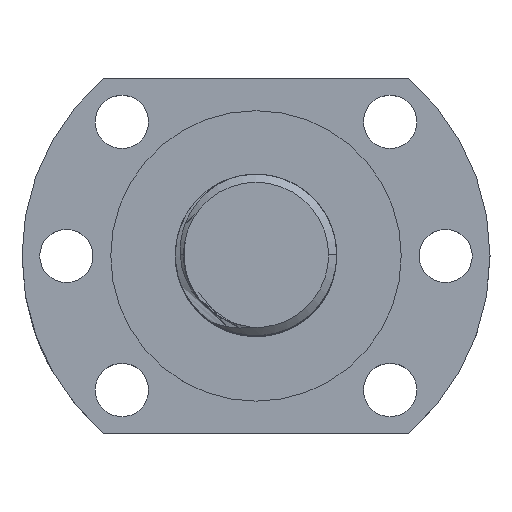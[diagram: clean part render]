
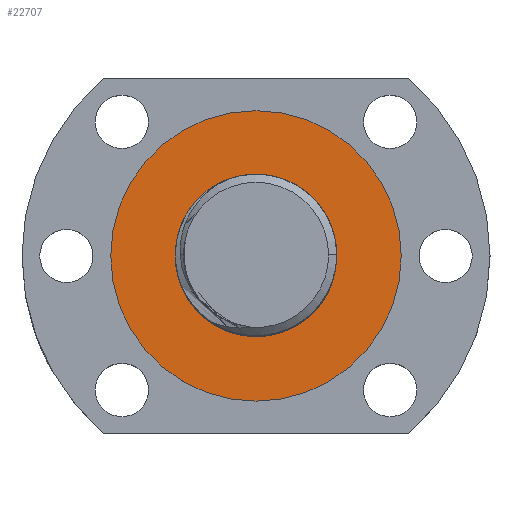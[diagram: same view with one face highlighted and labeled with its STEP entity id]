
A CAD part, top view. The second image highlights one B-rep face of the part: STEP entity #22707.
In plain terms, the highlighted planar face has unit normal (0, 0, 1) as drawn and (0, -1, 0) by its records, which use the part's own axes.
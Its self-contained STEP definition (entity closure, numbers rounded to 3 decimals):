
#1044 = DIRECTION ( 'NONE',  ( 1., 0., 0. ) ) ;
#1426 = EDGE_CURVE ( 'NONE', #13588, #18226, #8099, .T. ) ;
#2222 = AXIS2_PLACEMENT_3D ( 'NONE', #25803, #26121, #25965 ) ;
#3249 = ORIENTED_EDGE ( 'NONE', *, *, #6316, .F. ) ;
#3518 = CARTESIAN_POINT ( 'NONE',  ( 0., -25.5, 0. ) ) ;
#4270 = EDGE_LOOP ( 'NONE', ( #3249, #15597 ) ) ;
#5725 = CARTESIAN_POINT ( 'NONE',  ( 0., -25.5, 18. ) ) ;
#5859 = DIRECTION ( 'NONE',  ( 1., 0., 0. ) ) ;
#5867 = VERTEX_POINT ( 'NONE', #25111 ) ;
#6316 = EDGE_CURVE ( 'NONE', #8057, #5867, #13536, .T. ) ;
#7183 = EDGE_CURVE ( 'NONE', #5867, #8057, #18936, .T. ) ;
#7409 = CARTESIAN_POINT ( 'NONE',  ( 0., -25.5, -10. ) ) ;
#8057 = VERTEX_POINT ( 'NONE', #7409 ) ;
#8099 = CIRCLE ( 'NONE', #23830, 18. ) ;
#8323 = DIRECTION ( 'NONE',  ( 0., -1., 0. ) ) ;
#9188 = CARTESIAN_POINT ( 'NONE',  ( 0., -25.5, -18. ) ) ;
#9263 = DIRECTION ( 'NONE',  ( 1., 0., 0. ) ) ;
#9563 = AXIS2_PLACEMENT_3D ( 'NONE', #18499, #28030, #9263 ) ;
#10198 = ORIENTED_EDGE ( 'NONE', *, *, #1426, .F. ) ;
#10892 = CARTESIAN_POINT ( 'NONE',  ( 0., -25.5, 0. ) ) ;
#12798 = CARTESIAN_POINT ( 'NONE',  ( 0., -25.5, 0. ) ) ;
#13082 = DIRECTION ( 'NONE',  ( 0., 1., 0. ) ) ;
#13536 = CIRCLE ( 'NONE', #28276, 10. ) ;
#13588 = VERTEX_POINT ( 'NONE', #5725 ) ;
#15597 = ORIENTED_EDGE ( 'NONE', *, *, #7183, .F. ) ;
#18226 = VERTEX_POINT ( 'NONE', #9188 ) ;
#18499 = CARTESIAN_POINT ( 'NONE',  ( 0., -25.5, 0. ) ) ;
#18936 = CIRCLE ( 'NONE', #2222, 10. ) ;
#20797 = FACE_BOUND ( 'NONE', #4270, .T. ) ;
#21108 = PLANE ( 'NONE',  #9563 ) ;
#21190 = EDGE_CURVE ( 'NONE', #18226, #13588, #24297, .T. ) ;
#22707 = ADVANCED_FACE ( 'NONE', ( #30352, #20797 ), #21108, .F. ) ;
#23830 = AXIS2_PLACEMENT_3D ( 'NONE', #3518, #13082, #1044 ) ;
#24226 = EDGE_LOOP ( 'NONE', ( #30293, #10198 ) ) ;
#24297 = CIRCLE ( 'NONE', #27705, 18. ) ;
#25111 = CARTESIAN_POINT ( 'NONE',  ( 0., -25.5, 10. ) ) ;
#25803 = CARTESIAN_POINT ( 'NONE',  ( 0., -25.5, 0. ) ) ;
#25965 = DIRECTION ( 'NONE',  ( 1., 0., 0. ) ) ;
#26121 = DIRECTION ( 'NONE',  ( 0., -1., 0. ) ) ;
#27705 = AXIS2_PLACEMENT_3D ( 'NONE', #10892, #29373, #27812 ) ;
#27812 = DIRECTION ( 'NONE',  ( 1., 0., 0. ) ) ;
#28030 = DIRECTION ( 'NONE',  ( 0., 1., 0. ) ) ;
#28276 = AXIS2_PLACEMENT_3D ( 'NONE', #12798, #8323, #5859 ) ;
#29373 = DIRECTION ( 'NONE',  ( 0., 1., 0. ) ) ;
#30293 = ORIENTED_EDGE ( 'NONE', *, *, #21190, .F. ) ;
#30352 = FACE_OUTER_BOUND ( 'NONE', #24226, .T. ) ;
